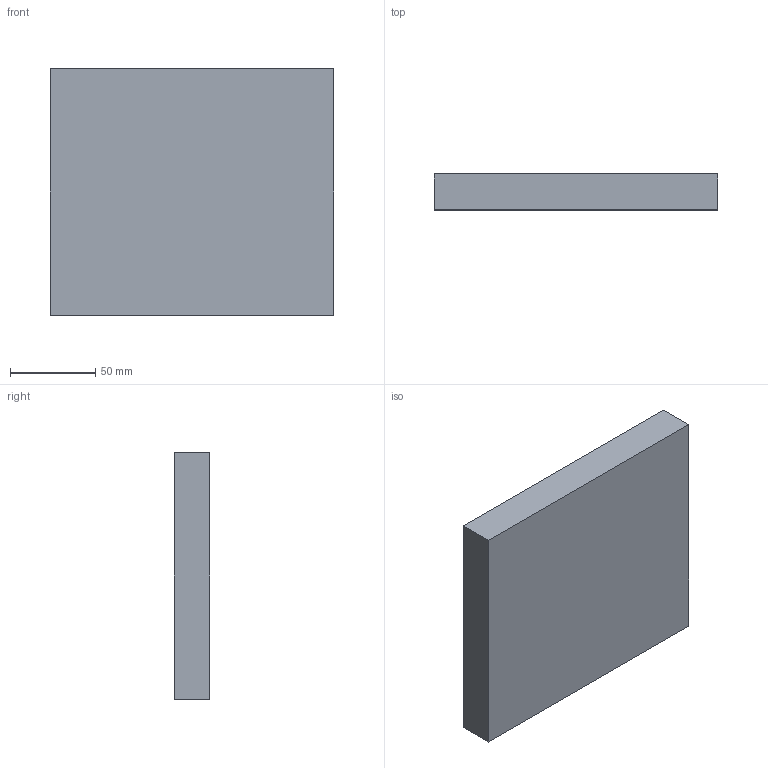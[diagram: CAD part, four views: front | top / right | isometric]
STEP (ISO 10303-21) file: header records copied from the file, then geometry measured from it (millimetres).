
FILE_DESCRIPTION((''),'2;1');
FILE_NAME('OCP-DSFF-AIR-BLOCK','2025-03-17T16:10:27',('T_Dawson'),('Dell Technologies'),'CREO PARAMETRIC BY PTC INC, 2023294','CREO PARAMETRIC BY PTC INC, 2023294','');
FILE_SCHEMA(('AUTOMOTIVE_DESIGN { 1 0 10303 214 1 1 1 1 }'));
Length unit declared in the file: millimetre
Products named in the file (1): OCP-DSFF-AIR-BLOCK
Bounding box: 166.75 x 21 x 145 mm (x, y, z)
Volume: 57357.2 mm3; surface area: 73109.2 mm2
Topology: 1 solids, 1 shells, 19 faces, 48 edges, 32 vertices
Faces by surface type: plane 15, cylinder 4
Entity records: 1383 total; most frequent: DIRECTION 220, CARTESIAN_POINT 189, COLOUR_RGB 109, ORIENTED_EDGE 96, AXIS2_PLACEMENT_3D 73, VECTOR 50, LINE 50, EDGE_CURVE 48
